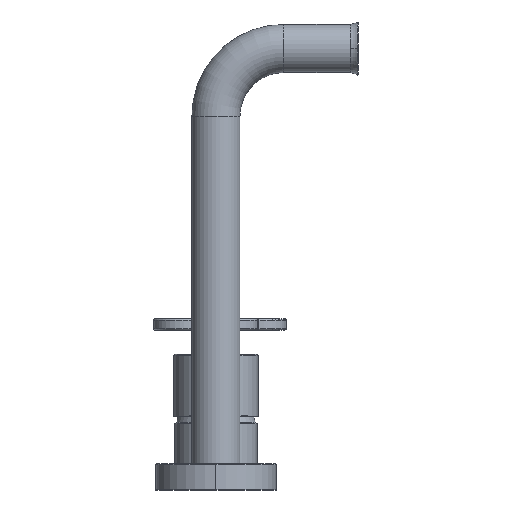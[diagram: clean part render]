
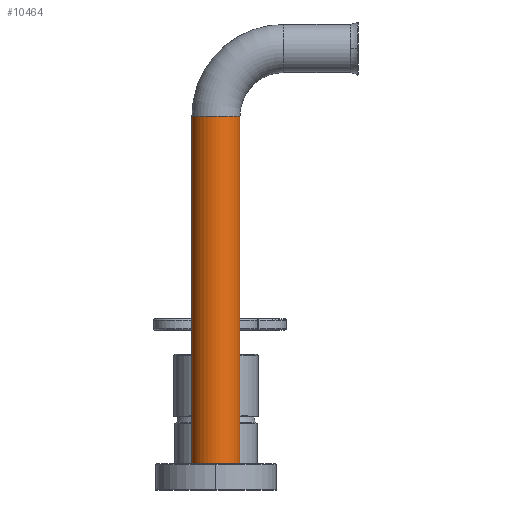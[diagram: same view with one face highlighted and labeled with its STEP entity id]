
A CAD part, left-side view. The second image highlights one B-rep face of the part: STEP entity #10464.
In plain terms, the highlighted cylindrical face has radius 12 mm (diameter 24 mm), a partial arc.
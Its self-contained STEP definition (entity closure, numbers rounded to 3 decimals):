
#8281=CARTESIAN_POINT('',(-130.,0.,192.75));
#8282=DIRECTION('',(0.,0.,-1.));
#8283=DIRECTION('',(0.,-1.,0.));
#8284=AXIS2_PLACEMENT_3D('',#8281,#8282,#8283);
#8306=DIRECTION('',(0.,0.,1.));
#8307=VECTOR('',#8306,179.25);
#8308=CARTESIAN_POINT('',(-130.,-12.,13.5));
#8309=LINE('',#8308,#8307);
#8320=CARTESIAN_POINT('',(-130.,0.,13.5));
#8321=DIRECTION('',(0.,0.,1.));
#8322=DIRECTION('',(0.,1.,0.));
#8323=AXIS2_PLACEMENT_3D('',#8320,#8321,#8322);
#8610=DIRECTION('',(0.,0.,1.));
#8611=VECTOR('',#8610,179.25);
#8612=CARTESIAN_POINT('',(-130.,12.,13.5));
#8613=LINE('',#8612,#8611);
#9616=CARTESIAN_POINT('',(-130.,-12.,192.75));
#9617=VERTEX_POINT('',#9616);
#9618=CARTESIAN_POINT('',(-130.,12.,192.75));
#9619=VERTEX_POINT('',#9618);
#9620=CARTESIAN_POINT('',(-130.,-12.,13.5));
#9621=CARTESIAN_POINT('',(-130.,12.,13.5));
#9622=VERTEX_POINT('',#9620);
#9623=VERTEX_POINT('',#9621);
#10453=CARTESIAN_POINT('',(-130.,0.,192.75));
#10454=DIRECTION('',(0.,0.,-1.));
#10455=DIRECTION('',(0.,-1.,0.));
#10456=AXIS2_PLACEMENT_3D('',#10453,#10454,#10455);
#10457=CYLINDRICAL_SURFACE('',#10456,12.);
#10458=ORIENTED_EDGE('',*,*,#9935,.F.);
#10459=ORIENTED_EDGE('',*,*,#9912,.T.);
#10460=ORIENTED_EDGE('',*,*,#9868,.F.);
#10461=ORIENTED_EDGE('',*,*,#9909,.F.);
#10462=EDGE_LOOP('',(#10458,#10459,#10460,#10461));
#10463=FACE_OUTER_BOUND('',#10462,.F.);
#8285=CIRCLE('',#8284,12.);
#8324=CIRCLE('',#8323,12.);
#9868=EDGE_CURVE('',#9617,#9619,#8285,.T.);
#9909=EDGE_CURVE('',#9622,#9617,#8309,.T.);
#9912=EDGE_CURVE('',#9623,#9619,#8613,.T.);
#9935=EDGE_CURVE('',#9623,#9622,#8324,.T.);
#10464=ADVANCED_FACE('',(#10463),#10457,.T.);
